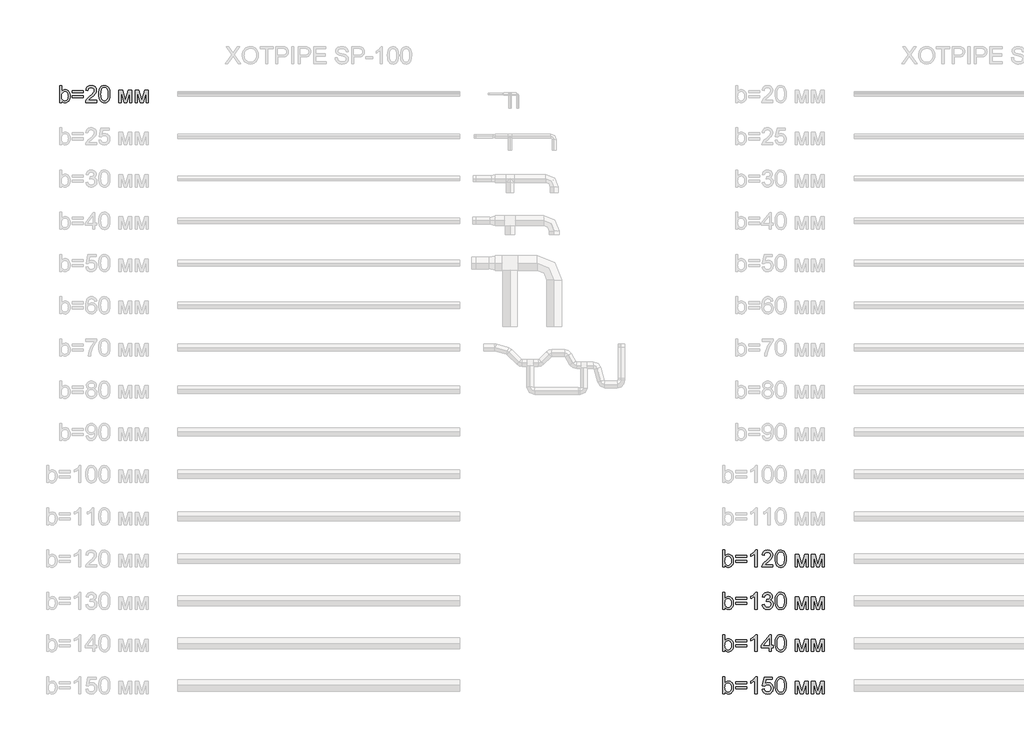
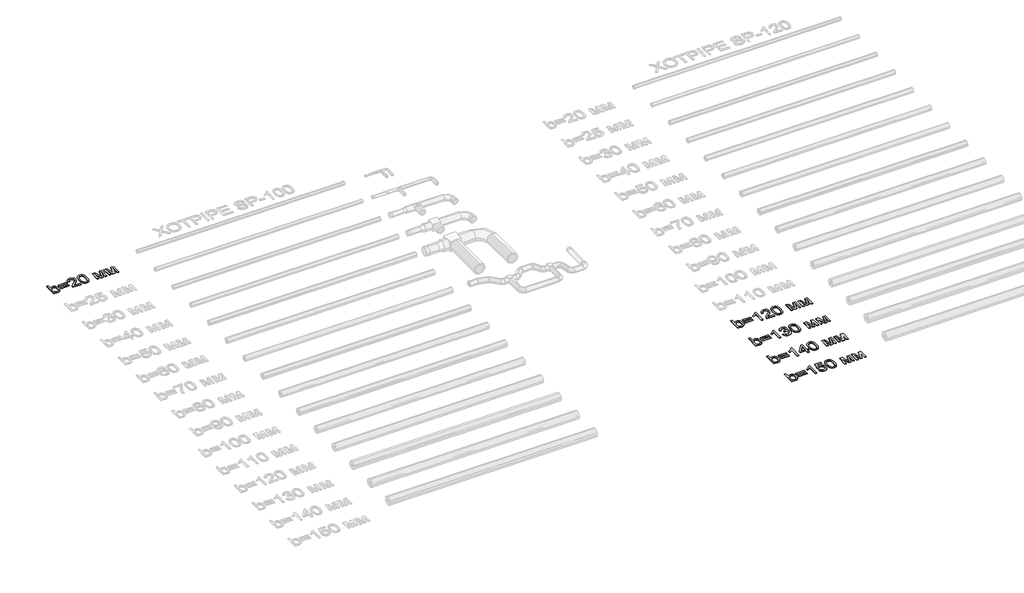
# One storey, part 74 of 86: 5 proxies.
"""IFC4 building model written with IfcOpenShell, lengths in millimetres."""

from ifc_helpers import new_model, si_unit, origin, origin_with_axes, place, context, project, spatial, polyline, outline, extrude, element, save

model = new_model("IFC4")

# Units and contexts
model_context = context("Model", 3, world=origin())
ifc_project = project(units=[si_unit("LENGTHUNIT", "METRE", prefix="MILLI")], contexts=[model_context])

# Site, building, storey
site = spatial("IfcSite", under=ifc_project)
building = spatial("IfcBuilding", under=site)
storey = spatial("IfcBuildingStorey", under=building, Name="Уровень 1", Elevation=0.0)

# Proxies
placement = place(None, origin())
element("IfcBuildingElementProxy", 1, Name="Текст модели 1", ObjectType="Текст модели 1", at=placement, inside=storey, context=model_context, shape_type="SweptSolid", body=[
    extrude(outline(polyline([(23159.6307988, 89169.2937088), (23084.2885662, 89169.2937088), (23084.2885662, 89772.0315697), (23159.6307988, 89772.0315697), (23159.6307988, 89548.5064694), (23184.4076512, 89580.3742473), (23212.3850769, 89603.1369457), (23243.563076, 89616.7945648), (23277.9416484, 89621.3471045), (23316.7531989, 89617.2452202), (23353.4310339, 89604.9395675), (23385.8782258, 89585.2026984), (23411.9978475, 89558.8071653), (23432.4704805, 89526.0104854), (23447.9767066, 89487.0701762), (23457.7439736, 89443.6049185), (23460.9997292, 89397.233393), (23457.6290105, 89343.7249568), (23447.5168541, 89296.6544555), (23430.6632602, 89256.0218892), (23407.0682288, 89221.8272577), (23378.7459136, 89194.7235517), (23347.7104688, 89175.3637617), (23313.9618943, 89163.7478877), (23277.50019, 89159.8759297), (23241.9903805, 89164.8699278), (23210.5088787, 89179.8519221), (23183.0556848, 89204.8219125), (23159.6307988, 89239.7798991), (23159.6307988, 89169.2937088)]), holes=[polyline([(23159.6307988, 89393.7017259), (23164.7811467, 89330.8674811), (23171.2190816, 89307.065516), (23180.2321905, 89288.3403224), (23198.4883345, 89265.0993774), (23219.7059286, 89248.4987024), (23243.8849727, 89238.5382973), (23271.0254669, 89235.2181623), (23293.5582391, 89237.6645776), (23314.5091188, 89245.0038234), (23333.8781058, 89257.2358997), (23351.6652003, 89274.3608066), (23366.5368299, 89296.3325588), (23377.1594225, 89323.105171), (23383.5329781, 89354.6786432), (23385.6574966, 89391.0529755), (23383.6203501, 89428.1170865), (23377.5089104, 89459.9940614), (23367.3231777, 89486.6839001), (23353.0631519, 89508.1866028), (23335.9152524, 89524.7320955), (23317.0658986, 89536.5503046), (23296.5150907, 89543.64123), (23274.2628285, 89546.0048719), (23251.7300563, 89543.5584566), (23230.7791767, 89536.2192108), (23211.4101896, 89523.9871344), (23193.6230951, 89506.8622276), (23178.7514655, 89485.1112046), (23168.1288729, 89459.00078), (23161.7553173, 89428.5309538), (23159.6307988, 89393.7017259)])]), origin_with_axes(), (0.0, 0.0, 1.0), 20.0),
    extrude(outline(polyline([(23931.8886831, 89517.7515346), (23536.3419619, 89517.7515346), (23536.3419619, 89593.0937672), (23931.8886831, 89593.0937672), (23931.8886831, 89517.7515346)])), origin_with_axes(), (0.0, 0.0, 1.0), 20.0),
    extrude(outline(polyline([(23931.8886831, 89338.8137322), (23536.3419619, 89338.8137322), (23536.3419619, 89414.1559648), (23931.8886831, 89414.1559648), (23931.8886831, 89338.8137322)])), origin_with_axes(), (0.0, 0.0, 1.0), 20.0),
    extrude(outline(polyline([(24402.7776369, 89244.6359414), (24402.7776369, 89169.2937088), (24007.2309157, 89169.2937088), (24008.8863847, 89195.8180007), (24015.3243196, 89221.2386465), (24033.9023603, 89261.8344247), (24061.0888398, 89301.2161923), (24100.4154251, 89342.4373698), (24155.4137833, 89388.5513779), (24236.7157043, 89460.7666136), (24285.4968568, 89514.0727147), (24299.724693, 89535.8513288), (24309.8874331, 89557.3356373), (24315.9850772, 89578.5256402), (24318.0176252, 89599.4213376), (24316.1000403, 89619.0800317), (24310.3472856, 89637.1476362), (24300.7593611, 89653.624151), (24287.3362668, 89668.5095763), (24270.8229638, 89680.8382216), (24251.964413, 89689.6443969), (24230.7606145, 89694.928102), (24207.2115683, 89696.6893371), (24182.4025262, 89694.9694888), (24160.2146434, 89689.8099438), (24140.6479198, 89681.2107021), (24123.7023554, 89669.1717638), (24109.9941525, 89654.0977991), (24100.1395136, 89636.3934781), (24094.1384385, 89616.0588008), (24091.9909274, 89593.0937672), (24016.6486948, 89602.5115463), (24023.1280164, 89641.4058703), (24034.9140358, 89675.3889696), (24052.006753, 89704.4608442), (24074.406168, 89728.6214943), (24101.597246, 89747.6134023), (24133.0649521, 89761.1790508), (24168.8092865, 89769.31844), (24208.830249, 89772.0315697), (24249.2098965, 89769.0149373), (24285.1473689, 89759.9650403), (24316.6426663, 89744.8818785), (24343.6957885, 89723.7654519), (24365.4238188, 89698.1792592), (24380.9438405, 89669.6867986), (24390.2558535, 89638.2880704), (24393.3598578, 89603.9830743), (24390.0121317, 89567.9490329), (24379.9689532, 89532.5403908), (24362.1450705, 89496.5247435), (24335.4552318, 89458.6696862), (24292.909679, 89413.4753831), (24227.5186544, 89355.4419984), (24140.8456563, 89282.9692453), (24106.85336, 89244.6359414), (24402.7776369, 89244.6359414)])), origin_with_axes(), (0.0, 0.0, 1.0), 20.0),
    extrude(outline(polyline([(24478.1198695, 89465.8065969), (24483.6564935, 89562.2836501), (24490.5772736, 89603.1967265), (24500.2663656, 89639.2261694), (24512.682383, 89670.6662845), (24527.7839389, 89697.8113772), (24545.5710333, 89720.6614476), (24566.0436664, 89739.2164957), (24589.2708158, 89753.5730906), (24615.3214596, 89763.8278012), (24644.1955977, 89769.9806276), (24675.8932301, 89772.0315697), (24722.3199379, 89767.1755274), (24763.8906034, 89752.6074004), (24798.6554519, 89728.8974058), (24824.664709, 89696.6157607), (24844.3096075, 89656.0383766), (24859.9813805, 89607.4411651), (24870.2452882, 89545.7289604), (24873.6665907, 89465.8065969), (24868.185149, 89369.8813667), (24861.3333468, 89329.106246), (24851.7408238, 89293.1227884), (24839.4213755, 89261.6688778), (24824.3887975, 89234.4823983), (24806.6430897, 89211.56335), (24786.1842523, 89192.9117329), (24762.9295116, 89178.458569), (24736.7960944, 89168.1348805), (24707.7840006, 89161.9406674), (24675.8932301, 89159.8759297), (24634.3961411, 89163.4627792), (24597.6079415, 89174.2233275), (24565.5286316, 89192.1575748), (24538.1582111, 89217.265521), (24511.8914367, 89262.6529621), (24493.1294549, 89319.2056218), (24481.8722659, 89386.9235001), (24478.1198695, 89465.8065969)]), holes=[polyline([(24553.4621021, 89465.9537497), (24555.6693941, 89400.456959), (24562.29127, 89347.440565), (24573.3277299, 89306.9045676), (24588.7787737, 89278.848967), (24607.467179, 89259.7604899), (24628.2157235, 89246.1258635), (24651.0244072, 89237.9450876), (24675.8932301, 89235.2181623), (24700.762053, 89237.9542847), (24723.5707367, 89246.1626517), (24744.3192812, 89259.8432634), (24763.0076866, 89278.9961198), (24778.4587304, 89307.0977057), (24789.4951902, 89347.624506), (24796.1170661, 89400.5765206), (24798.3243581, 89465.9537497), (24796.1906425, 89529.7168965), (24789.7894958, 89581.79979), (24779.120918, 89622.2024301), (24764.184909, 89650.9248169), (24745.8092033, 89670.9467945), (24724.8215355, 89685.248207), (24701.2219055, 89693.8290546), (24675.0103133, 89696.6893371), (24650.2702492, 89694.1693454), (24627.8478415, 89686.6093704), (24607.7430905, 89674.0094121), (24589.955996, 89656.3694704), (24573.9899175, 89625.0995008), (24562.5855756, 89582.9402242), (24555.7429705, 89529.8916405), (24553.4621021, 89465.9537497)])]), origin_with_axes(), (0.0, 0.0, 1.0), 20.0),
    extrude(outline(polyline([(25193.8710793, 89611.9293254), (25323.5126944, 89611.9293254), (25423.4294443, 89257.5853876), (25531.1452925, 89611.9293254), (25655.3422541, 89611.9293254), (25655.3422541, 89169.2937088), (25580.0000215, 89169.2937088), (25580.0000215, 89525.6977857), (25471.6955621, 89169.2937088), (25372.8088818, 89169.2937088), (25269.2133119, 89542.7675103), (25269.2133119, 89169.2937088), (25193.8710793, 89169.2937088), (25193.8710793, 89611.9293254)])), origin_with_axes(), (0.0, 0.0, 1.0), 20.0),
    extrude(outline(polyline([(25768.355603, 89611.9293254), (25897.9972181, 89611.9293254), (25997.913968, 89257.5853876), (26105.6298162, 89611.9293254), (26229.8267777, 89611.9293254), (26229.8267777, 89169.2937088), (26154.4845451, 89169.2937088), (26154.4845451, 89525.6977857), (26046.1800857, 89169.2937088), (25947.2934054, 89169.2937088), (25843.6978356, 89542.7675103), (25843.6978356, 89169.2937088), (25768.355603, 89169.2937088), (25768.355603, 89611.9293254)])), origin_with_axes(), (0.0, 0.0, 1.0), 20.0),
])
element("IfcBuildingElementProxy", 2, Name="Текст модели 1", ObjectType="Текст модели 1", at=placement, inside=storey, context=model_context, shape_type="SweptSolid", body=[
    extrude(outline(polyline([(46698.159624, 72669.2937088), (46622.8173914, 72669.2937088), (46622.8173914, 73272.0315697), (46698.159624, 73272.0315697), (46698.159624, 73048.5064694), (46722.9364764, 73080.3742473), (46750.9139022, 73103.1369457), (46782.0919012, 73116.7945648), (46816.4704737, 73121.3471045), (46855.2820242, 73117.2452202), (46891.9598591, 73104.9395675), (46924.4070511, 73085.2026984), (46950.5266727, 73058.8071653), (46970.9993058, 73026.0104854), (46986.5055319, 72987.0701762), (46996.2727988, 72943.6049185), (46999.5285545, 72897.233393), (46996.1578357, 72843.7249568), (46986.0456794, 72796.6544555), (46969.1920855, 72756.0218892), (46945.597054, 72721.8272577), (46917.2747389, 72694.7235517), (46886.2392941, 72675.3637617), (46852.4907195, 72663.7478877), (46816.0290153, 72659.8759297), (46780.5192057, 72664.8699278), (46749.037704, 72679.8519221), (46721.5845101, 72704.8219125), (46698.159624, 72739.7798991), (46698.159624, 72669.2937088)]), holes=[polyline([(46698.159624, 72893.7017259), (46703.309972, 72830.8674811), (46709.7479069, 72807.065516), (46718.7610158, 72788.3403224), (46737.0171598, 72765.0993774), (46758.2347539, 72748.4987024), (46782.413798, 72738.5382973), (46809.5542922, 72735.2181623), (46832.0870644, 72737.6645776), (46853.037944, 72745.0038234), (46872.4069311, 72757.2358997), (46890.1940255, 72774.3608066), (46905.0656552, 72796.3325588), (46915.6882478, 72823.105171), (46922.0618034, 72854.6786432), (46924.1863219, 72891.0529755), (46922.1491753, 72928.1170865), (46916.0377357, 72959.9940614), (46905.8520029, 72986.6839001), (46891.5919771, 73008.1866028), (46874.4440776, 73024.7320955), (46855.5947239, 73036.5503046), (46835.0439159, 73043.64123), (46812.7916537, 73046.0048719), (46790.2588815, 73043.5584566), (46769.3080019, 73036.2192108), (46749.9390149, 73023.9871344), (46732.1519204, 73006.8622276), (46717.2802907, 72985.1112046), (46706.6576981, 72959.00078), (46700.2841426, 72928.5309538), (46698.159624, 72893.7017259)])]), origin_with_axes(), (0.0, 0.0, 1.0), 20.0),
    extrude(outline(polyline([(47470.4175083, 73017.7515346), (47074.8707871, 73017.7515346), (47074.8707871, 73093.0937672), (47470.4175083, 73093.0937672), (47470.4175083, 73017.7515346)])), origin_with_axes(), (0.0, 0.0, 1.0), 20.0),
    extrude(outline(polyline([(47470.4175083, 72838.8137322), (47074.8707871, 72838.8137322), (47074.8707871, 72914.1559648), (47470.4175083, 72914.1559648), (47470.4175083, 72838.8137322)])), origin_with_axes(), (0.0, 0.0, 1.0), 20.0),
    extrude(outline(polyline([(47837.7108923, 72669.2937088), (47762.3686597, 72669.2937088), (47762.3686597, 73139.0054402), (47730.9147491, 73113.5664003), (47690.9995526, 73088.1641485), (47649.0977934, 73065.9624701), (47611.6841945, 73050.1251502), (47611.6841945, 73121.3471045), (47670.8580134, 73153.5367791), (47722.1223694, 73191.8332947), (47762.5342066, 73232.5578316), (47789.1504689, 73272.0315697), (47837.7108923, 73272.0315697), (47837.7108923, 72669.2937088)])), origin_with_axes(), (0.0, 0.0, 1.0), 20.0),
    extrude(outline(polyline([(48402.7776369, 72744.6359414), (48402.7776369, 72669.2937088), (48007.2309157, 72669.2937088), (48008.8863847, 72695.8180007), (48015.3243196, 72721.2386465), (48033.9023603, 72761.8344247), (48061.0888398, 72801.2161923), (48100.4154251, 72842.4373698), (48155.4137833, 72888.5513779), (48236.7157043, 72960.7666136), (48285.4968568, 73014.0727147), (48299.724693, 73035.8513288), (48309.8874331, 73057.3356373), (48315.9850772, 73078.5256402), (48318.0176252, 73099.4213376), (48316.1000403, 73119.0800317), (48310.3472856, 73137.1476362), (48300.7593611, 73153.624151), (48287.3362668, 73168.5095763), (48270.8229638, 73180.8382216), (48251.964413, 73189.6443969), (48230.7606145, 73194.928102), (48207.2115683, 73196.6893371), (48182.4025262, 73194.9694888), (48160.2146434, 73189.8099438), (48140.6479198, 73181.2107021), (48123.7023554, 73169.1717638), (48109.9941525, 73154.0977991), (48100.1395136, 73136.3934781), (48094.1384385, 73116.0588008), (48091.9909274, 73093.0937672), (48016.6486948, 73102.5115463), (48023.1280164, 73141.4058703), (48034.9140358, 73175.3889696), (48052.006753, 73204.4608442), (48074.406168, 73228.6214943), (48101.597246, 73247.6134023), (48133.0649521, 73261.1790508), (48168.8092865, 73269.31844), (48208.830249, 73272.0315697), (48249.2098965, 73269.0149373), (48285.1473689, 73259.9650403), (48316.6426663, 73244.8818785), (48343.6957885, 73223.7654519), (48365.4238188, 73198.1792592), (48380.9438405, 73169.6867986), (48390.2558535, 73138.2880704), (48393.3598578, 73103.9830743), (48390.0121317, 73067.9490329), (48379.9689532, 73032.5403908), (48362.1450705, 72996.5247435), (48335.4552318, 72958.6696862), (48292.909679, 72913.4753831), (48227.5186544, 72855.4419984), (48140.8456563, 72782.9692453), (48106.85336, 72744.6359414), (48402.7776369, 72744.6359414)])), origin_with_axes(), (0.0, 0.0, 1.0), 20.0),
    extrude(outline(polyline([(48478.1198695, 72965.8065969), (48483.6564935, 73062.2836501), (48490.5772736, 73103.1967265), (48500.2663656, 73139.2261694), (48512.682383, 73170.6662845), (48527.7839389, 73197.8113772), (48545.5710333, 73220.6614476), (48566.0436664, 73239.2164957), (48589.2708158, 73253.5730906), (48615.3214596, 73263.8278012), (48644.1955977, 73269.9806276), (48675.8932301, 73272.0315697), (48722.3199379, 73267.1755274), (48763.8906034, 73252.6074004), (48798.6554519, 73228.8974058), (48824.664709, 73196.6157607), (48844.3096075, 73156.0383766), (48859.9813805, 73107.4411651), (48870.2452882, 73045.7289604), (48873.6665907, 72965.8065969), (48868.185149, 72869.8813667), (48861.3333468, 72829.106246), (48851.7408238, 72793.1227884), (48839.4213755, 72761.6688778), (48824.3887975, 72734.4823983), (48806.6430897, 72711.56335), (48786.1842523, 72692.9117329), (48762.9295116, 72678.458569), (48736.7960944, 72668.1348805), (48707.7840006, 72661.9406674), (48675.8932301, 72659.8759297), (48634.3961411, 72663.4627792), (48597.6079415, 72674.2233275), (48565.5286316, 72692.1575748), (48538.1582111, 72717.265521), (48511.8914367, 72762.6529621), (48493.1294549, 72819.2056218), (48481.8722659, 72886.9235001), (48478.1198695, 72965.8065969)]), holes=[polyline([(48553.4621021, 72965.9537497), (48555.6693941, 72900.456959), (48562.29127, 72847.440565), (48573.3277299, 72806.9045676), (48588.7787737, 72778.848967), (48607.467179, 72759.7604899), (48628.2157235, 72746.1258635), (48651.0244072, 72737.9450876), (48675.8932301, 72735.2181623), (48700.762053, 72737.9542847), (48723.5707367, 72746.1626517), (48744.3192812, 72759.8432634), (48763.0076866, 72778.9961198), (48778.4587304, 72807.0977057), (48789.4951902, 72847.624506), (48796.1170661, 72900.5765206), (48798.3243581, 72965.9537497), (48796.1906425, 73029.7168965), (48789.7894958, 73081.79979), (48779.120918, 73122.2024301), (48764.184909, 73150.9248169), (48745.8092033, 73170.9467945), (48724.8215355, 73185.248207), (48701.2219055, 73193.8290546), (48675.0103133, 73196.6893371), (48650.2702492, 73194.1693454), (48627.8478415, 73186.6093704), (48607.7430905, 73174.0094121), (48589.955996, 73156.3694704), (48573.9899175, 73125.0995008), (48562.5855756, 73082.9402242), (48555.7429705, 73029.8916405), (48553.4621021, 72965.9537497)])]), origin_with_axes(), (0.0, 0.0, 1.0), 20.0),
    extrude(outline(polyline([(49193.8710793, 73111.9293254), (49323.5126944, 73111.9293254), (49423.4294443, 72757.5853876), (49531.1452925, 73111.9293254), (49655.3422541, 73111.9293254), (49655.3422541, 72669.2937088), (49580.0000215, 72669.2937088), (49580.0000215, 73025.6977857), (49471.6955621, 72669.2937088), (49372.8088818, 72669.2937088), (49269.2133119, 73042.7675103), (49269.2133119, 72669.2937088), (49193.8710793, 72669.2937088), (49193.8710793, 73111.9293254)])), origin_with_axes(), (0.0, 0.0, 1.0), 20.0),
    extrude(outline(polyline([(49768.355603, 73111.9293254), (49897.9972181, 73111.9293254), (49997.913968, 72757.5853876), (50105.6298162, 73111.9293254), (50229.8267777, 73111.9293254), (50229.8267777, 72669.2937088), (50154.4845451, 72669.2937088), (50154.4845451, 73025.6977857), (50046.1800857, 72669.2937088), (49947.2934054, 72669.2937088), (49843.6978356, 73042.7675103), (49843.6978356, 72669.2937088), (49768.355603, 72669.2937088), (49768.355603, 73111.9293254)])), origin_with_axes(), (0.0, 0.0, 1.0), 20.0),
])
element("IfcBuildingElementProxy", 3, Name="Текст модели 1", ObjectType="Текст модели 1", at=placement, inside=storey, context=model_context, shape_type="SweptSolid", body=[
    extrude(outline(polyline([(46698.159624, 71169.2937088), (46622.8173914, 71169.2937088), (46622.8173914, 71772.0315697), (46698.159624, 71772.0315697), (46698.159624, 71548.5064694), (46722.9364764, 71580.3742473), (46750.9139022, 71603.1369457), (46782.0919012, 71616.7945648), (46816.4704737, 71621.3471045), (46855.2820242, 71617.2452202), (46891.9598591, 71604.9395675), (46924.4070511, 71585.2026984), (46950.5266727, 71558.8071653), (46970.9993058, 71526.0104854), (46986.5055319, 71487.0701762), (46996.2727988, 71443.6049185), (46999.5285545, 71397.233393), (46996.1578357, 71343.7249568), (46986.0456794, 71296.6544555), (46969.1920855, 71256.0218892), (46945.597054, 71221.8272577), (46917.2747389, 71194.7235517), (46886.2392941, 71175.3637617), (46852.4907195, 71163.7478877), (46816.0290153, 71159.8759297), (46780.5192057, 71164.8699278), (46749.037704, 71179.8519221), (46721.5845101, 71204.8219125), (46698.159624, 71239.7798991), (46698.159624, 71169.2937088)]), holes=[polyline([(46698.159624, 71393.7017259), (46703.309972, 71330.8674811), (46709.7479069, 71307.065516), (46718.7610158, 71288.3403224), (46737.0171598, 71265.0993774), (46758.2347539, 71248.4987024), (46782.413798, 71238.5382973), (46809.5542922, 71235.2181623), (46832.0870644, 71237.6645776), (46853.037944, 71245.0038234), (46872.4069311, 71257.2358997), (46890.1940255, 71274.3608066), (46905.0656552, 71296.3325588), (46915.6882478, 71323.105171), (46922.0618034, 71354.6786432), (46924.1863219, 71391.0529755), (46922.1491753, 71428.1170865), (46916.0377357, 71459.9940614), (46905.8520029, 71486.6839001), (46891.5919771, 71508.1866028), (46874.4440776, 71524.7320955), (46855.5947239, 71536.5503046), (46835.0439159, 71543.64123), (46812.7916537, 71546.0048719), (46790.2588815, 71543.5584566), (46769.3080019, 71536.2192108), (46749.9390149, 71523.9871344), (46732.1519204, 71506.8622276), (46717.2802907, 71485.1112046), (46706.6576981, 71459.00078), (46700.2841426, 71428.5309538), (46698.159624, 71393.7017259)])]), origin_with_axes(), (0.0, 0.0, 1.0), 20.0),
    extrude(outline(polyline([(47470.4175083, 71517.7515346), (47074.8707871, 71517.7515346), (47074.8707871, 71593.0937672), (47470.4175083, 71593.0937672), (47470.4175083, 71517.7515346)])), origin_with_axes(), (0.0, 0.0, 1.0), 20.0),
    extrude(outline(polyline([(47470.4175083, 71338.8137322), (47074.8707871, 71338.8137322), (47074.8707871, 71414.1559648), (47470.4175083, 71414.1559648), (47470.4175083, 71338.8137322)])), origin_with_axes(), (0.0, 0.0, 1.0), 20.0),
    extrude(outline(polyline([(47837.7108923, 71169.2937088), (47762.3686597, 71169.2937088), (47762.3686597, 71639.0054402), (47730.9147491, 71613.5664003), (47690.9995526, 71588.1641485), (47649.0977934, 71565.9624701), (47611.6841945, 71550.1251502), (47611.6841945, 71621.3471045), (47670.8580134, 71653.5367791), (47722.1223694, 71691.8332947), (47762.5342066, 71732.5578316), (47789.1504689, 71772.0315697), (47837.7108923, 71772.0315697), (47837.7108923, 71169.2937088)])), origin_with_axes(), (0.0, 0.0, 1.0), 20.0),
    extrude(outline(polyline([(48016.6486948, 71329.3959531), (48091.9909274, 71338.8137322), (48108.8583168, 71291.4673194), (48120.230469, 71273.5606633), (48133.5615928, 71259.498374), (48149.1551909, 71248.8757814), (48167.3147659, 71241.2882153), (48188.0403178, 71236.7356756), (48211.3318466, 71235.2181623), (48238.6286906, 71237.3058927), (48262.9824787, 71243.5690836), (48284.3932108, 71254.0077352), (48302.860887, 71268.6218475), (48317.7325167, 71286.3169715), (48328.3551093, 71305.9986582), (48334.7286648, 71327.6669077), (48336.8531834, 71351.32172), (48334.7470589, 71373.8498937), (48328.4286857, 71394.3455193), (48317.8980636, 71412.808597), (48303.1551926, 71429.2391266), (48285.165763, 71442.7266002), (48264.8954651, 71452.36051), (48242.3442988, 71458.1408558), (48217.5122641, 71460.0676378), (48193.710299, 71458.0074986), (48164.6844096, 71451.8270811), (48173.0721191, 71527.1693137), (48185.1386485, 71526.2863969), (48230.2777694, 71531.6942622), (48270.6344242, 71547.9178582), (48287.2442963, 71560.1867228), (48299.1084907, 71575.3618551), (48306.2270073, 71593.4432551), (48308.5998461, 71614.430923), (48306.8799978, 71631.4684579), (48301.7204528, 71646.9700854), (48293.1212112, 71660.9358057), (48281.0822729, 71673.3656186), (48266.3302049, 71683.5697454), (48249.5915741, 71690.8584075), (48210.1546242, 71696.6893371), (48189.4980502, 71695.2178091), (48170.6440979, 71690.8032252), (48153.5927675, 71683.4455853), (48138.3440588, 71673.1448894), (48125.2750509, 71659.9011376), (48114.7628229, 71643.7143298), (48106.8073747, 71624.584466), (48101.4087064, 71602.5115463), (48026.0664738, 71611.9293254), (48034.9968093, 71647.8989875), (48048.2497581, 71679.5828243), (48065.8253205, 71706.9808359), (48087.7234962, 71730.0930222), (48113.2545067, 71748.4411368), (48141.7285731, 71761.5469328), (48173.1456955, 71769.4104105), (48207.5058739, 71772.0315697), (48254.8706807, 71766.8628277), (48298.3727267, 71751.3566016), (48335.0505616, 71726.8924489), (48361.9427354, 71694.8499271), (48378.4422429, 71657.9329689), (48383.9420787, 71618.8455069), (48378.7181544, 71582.4251894), (48363.0463814, 71549.3893862), (48337.147489, 71521.2464136), (48301.2422062, 71499.5045877), (48326.3501524, 71491.6503071), (48348.404678, 71480.4483003), (48367.4057831, 71465.8985674), (48383.3534676, 71448.0011083), (48395.97182, 71427.1973815), (48404.9849289, 71403.9288453), (48410.3927942, 71378.1954998), (48412.195416, 71349.9973448), (48408.5901724, 71311.7744055), (48397.7744418, 71276.5680986), (48379.748224, 71244.378424), (48354.5115191, 71215.2053818), (48323.7657814, 71190.9987465), (48289.212465, 71173.7082927), (48250.8515699, 71163.3340205), (48208.6830962, 71159.8759297), (48170.5705215, 71162.8281827), (48135.8424612, 71171.6849418), (48104.4989152, 71186.4462068), (48076.5398836, 71207.1119779), (48053.0966034, 71232.4682444), (48035.3003119, 71261.3009958), (48023.151009, 71293.610232), (48016.6486948, 71329.3959531)])), origin_with_axes(), (0.0, 0.0, 1.0), 20.0),
    extrude(outline(polyline([(48478.1198695, 71465.8065969), (48483.6564935, 71562.2836501), (48490.5772736, 71603.1967265), (48500.2663656, 71639.2261694), (48512.682383, 71670.6662845), (48527.7839389, 71697.8113772), (48545.5710333, 71720.6614476), (48566.0436664, 71739.2164957), (48589.2708158, 71753.5730906), (48615.3214596, 71763.8278012), (48644.1955977, 71769.9806276), (48675.8932301, 71772.0315697), (48722.3199379, 71767.1755274), (48763.8906034, 71752.6074004), (48798.6554519, 71728.8974058), (48824.664709, 71696.6157607), (48844.3096075, 71656.0383766), (48859.9813805, 71607.4411651), (48870.2452882, 71545.7289604), (48873.6665907, 71465.8065969), (48868.185149, 71369.8813667), (48861.3333468, 71329.106246), (48851.7408238, 71293.1227884), (48839.4213755, 71261.6688778), (48824.3887975, 71234.4823983), (48806.6430897, 71211.56335), (48786.1842523, 71192.9117329), (48762.9295116, 71178.458569), (48736.7960944, 71168.1348805), (48707.7840006, 71161.9406674), (48675.8932301, 71159.8759297), (48634.3961411, 71163.4627792), (48597.6079415, 71174.2233275), (48565.5286316, 71192.1575748), (48538.1582111, 71217.265521), (48511.8914367, 71262.6529621), (48493.1294549, 71319.2056218), (48481.8722659, 71386.9235001), (48478.1198695, 71465.8065969)]), holes=[polyline([(48553.4621021, 71465.9537497), (48555.6693941, 71400.456959), (48562.29127, 71347.440565), (48573.3277299, 71306.9045676), (48588.7787737, 71278.848967), (48607.467179, 71259.7604899), (48628.2157235, 71246.1258635), (48651.0244072, 71237.9450876), (48675.8932301, 71235.2181623), (48700.762053, 71237.9542847), (48723.5707367, 71246.1626517), (48744.3192812, 71259.8432634), (48763.0076866, 71278.9961198), (48778.4587304, 71307.0977057), (48789.4951902, 71347.624506), (48796.1170661, 71400.5765206), (48798.3243581, 71465.9537497), (48796.1906425, 71529.7168965), (48789.7894958, 71581.79979), (48779.120918, 71622.2024301), (48764.184909, 71650.9248169), (48745.8092033, 71670.9467945), (48724.8215355, 71685.248207), (48701.2219055, 71693.8290546), (48675.0103133, 71696.6893371), (48650.2702492, 71694.1693454), (48627.8478415, 71686.6093704), (48607.7430905, 71674.0094121), (48589.955996, 71656.3694704), (48573.9899175, 71625.0995008), (48562.5855756, 71582.9402242), (48555.7429705, 71529.8916405), (48553.4621021, 71465.9537497)])]), origin_with_axes(), (0.0, 0.0, 1.0), 20.0),
    extrude(outline(polyline([(49193.8710793, 71611.9293254), (49323.5126944, 71611.9293254), (49423.4294443, 71257.5853876), (49531.1452925, 71611.9293254), (49655.3422541, 71611.9293254), (49655.3422541, 71169.2937088), (49580.0000215, 71169.2937088), (49580.0000215, 71525.6977857), (49471.6955621, 71169.2937088), (49372.8088818, 71169.2937088), (49269.2133119, 71542.7675103), (49269.2133119, 71169.2937088), (49193.8710793, 71169.2937088), (49193.8710793, 71611.9293254)])), origin_with_axes(), (0.0, 0.0, 1.0), 20.0),
    extrude(outline(polyline([(49768.355603, 71611.9293254), (49897.9972181, 71611.9293254), (49997.913968, 71257.5853876), (50105.6298162, 71611.9293254), (50229.8267777, 71611.9293254), (50229.8267777, 71169.2937088), (50154.4845451, 71169.2937088), (50154.4845451, 71525.6977857), (50046.1800857, 71169.2937088), (49947.2934054, 71169.2937088), (49843.6978356, 71542.7675103), (49843.6978356, 71169.2937088), (49768.355603, 71169.2937088), (49768.355603, 71611.9293254)])), origin_with_axes(), (0.0, 0.0, 1.0), 20.0),
])
element("IfcBuildingElementProxy", 4, Name="Текст модели 1", ObjectType="Текст модели 1", at=placement, inside=storey, context=model_context, shape_type="SweptSolid", body=[
    extrude(outline(polyline([(46698.159624, 69669.2937088), (46622.8173914, 69669.2937088), (46622.8173914, 70272.0315697), (46698.159624, 70272.0315697), (46698.159624, 70048.5064694), (46722.9364764, 70080.3742473), (46750.9139022, 70103.1369457), (46782.0919012, 70116.7945648), (46816.4704737, 70121.3471045), (46855.2820242, 70117.2452202), (46891.9598591, 70104.9395675), (46924.4070511, 70085.2026984), (46950.5266727, 70058.8071653), (46970.9993058, 70026.0104854), (46986.5055319, 69987.0701762), (46996.2727988, 69943.6049185), (46999.5285545, 69897.233393), (46996.1578357, 69843.7249568), (46986.0456794, 69796.6544555), (46969.1920855, 69756.0218892), (46945.597054, 69721.8272577), (46917.2747389, 69694.7235517), (46886.2392941, 69675.3637617), (46852.4907195, 69663.7478877), (46816.0290153, 69659.8759297), (46780.5192057, 69664.8699278), (46749.037704, 69679.8519221), (46721.5845101, 69704.8219125), (46698.159624, 69739.7798991), (46698.159624, 69669.2937088)]), holes=[polyline([(46698.159624, 69893.7017259), (46703.309972, 69830.8674811), (46709.7479069, 69807.065516), (46718.7610158, 69788.3403224), (46737.0171598, 69765.0993774), (46758.2347539, 69748.4987024), (46782.413798, 69738.5382973), (46809.5542922, 69735.2181623), (46832.0870644, 69737.6645776), (46853.037944, 69745.0038234), (46872.4069311, 69757.2358997), (46890.1940255, 69774.3608066), (46905.0656552, 69796.3325588), (46915.6882478, 69823.105171), (46922.0618034, 69854.6786432), (46924.1863219, 69891.0529755), (46922.1491753, 69928.1170865), (46916.0377357, 69959.9940614), (46905.8520029, 69986.6839001), (46891.5919771, 70008.1866028), (46874.4440776, 70024.7320955), (46855.5947239, 70036.5503046), (46835.0439159, 70043.64123), (46812.7916537, 70046.0048719), (46790.2588815, 70043.5584566), (46769.3080019, 70036.2192108), (46749.9390149, 70023.9871344), (46732.1519204, 70006.8622276), (46717.2802907, 69985.1112046), (46706.6576981, 69959.00078), (46700.2841426, 69928.5309538), (46698.159624, 69893.7017259)])]), origin_with_axes(), (0.0, 0.0, 1.0), 20.0),
    extrude(outline(polyline([(47470.4175083, 70017.7515346), (47074.8707871, 70017.7515346), (47074.8707871, 70093.0937672), (47470.4175083, 70093.0937672), (47470.4175083, 70017.7515346)])), origin_with_axes(), (0.0, 0.0, 1.0), 20.0),
    extrude(outline(polyline([(47470.4175083, 69838.8137322), (47074.8707871, 69838.8137322), (47074.8707871, 69914.1559648), (47470.4175083, 69914.1559648), (47470.4175083, 69838.8137322)])), origin_with_axes(), (0.0, 0.0, 1.0), 20.0),
    extrude(outline(polyline([(47837.7108923, 69669.2937088), (47762.3686597, 69669.2937088), (47762.3686597, 70139.0054402), (47730.9147491, 70113.5664003), (47690.9995526, 70088.1641485), (47649.0977934, 70065.9624701), (47611.6841945, 70050.1251502), (47611.6841945, 70121.3471045), (47670.8580134, 70153.5367791), (47722.1223694, 70191.8332947), (47762.5342066, 70232.5578316), (47789.1504689, 70272.0315697), (47837.7108923, 70272.0315697), (47837.7108923, 69669.2937088)])), origin_with_axes(), (0.0, 0.0, 1.0), 20.0),
    extrude(outline(polyline([(48261.5109507, 69669.2937088), (48261.5109507, 69810.5603949), (47988.3953575, 69810.5603949), (47988.3953575, 69885.9026276), (48280.3465089, 70262.6137906), (48336.8531834, 70262.6137906), (48336.8531834, 69885.9026276), (48412.195416, 69885.9026276), (48412.195416, 69810.5603949), (48336.8531834, 69810.5603949), (48336.8531834, 69669.2937088), (48261.5109507, 69669.2937088)]), holes=[polyline([(48261.5109507, 69885.9026276), (48261.5109507, 70118.6983541), (48081.1016203, 69885.9026276), (48261.5109507, 69885.9026276)])]), origin_with_axes(), (0.0, 0.0, 1.0), 20.0),
    extrude(outline(polyline([(48478.1198695, 69965.8065969), (48483.6564935, 70062.2836501), (48490.5772736, 70103.1967265), (48500.2663656, 70139.2261694), (48512.682383, 70170.6662845), (48527.7839389, 70197.8113772), (48545.5710333, 70220.6614476), (48566.0436664, 70239.2164957), (48589.2708158, 70253.5730906), (48615.3214596, 70263.8278012), (48644.1955977, 70269.9806276), (48675.8932301, 70272.0315697), (48722.3199379, 70267.1755274), (48763.8906034, 70252.6074004), (48798.6554519, 70228.8974058), (48824.664709, 70196.6157607), (48844.3096075, 70156.0383766), (48859.9813805, 70107.4411651), (48870.2452882, 70045.7289604), (48873.6665907, 69965.8065969), (48868.185149, 69869.8813667), (48861.3333468, 69829.106246), (48851.7408238, 69793.1227884), (48839.4213755, 69761.6688778), (48824.3887975, 69734.4823983), (48806.6430897, 69711.56335), (48786.1842523, 69692.9117329), (48762.9295116, 69678.458569), (48736.7960944, 69668.1348805), (48707.7840006, 69661.9406674), (48675.8932301, 69659.8759297), (48634.3961411, 69663.4627792), (48597.6079415, 69674.2233275), (48565.5286316, 69692.1575748), (48538.1582111, 69717.265521), (48511.8914367, 69762.6529621), (48493.1294549, 69819.2056218), (48481.8722659, 69886.9235001), (48478.1198695, 69965.8065969)]), holes=[polyline([(48553.4621021, 69965.9537497), (48555.6693941, 69900.456959), (48562.29127, 69847.440565), (48573.3277299, 69806.9045676), (48588.7787737, 69778.848967), (48607.467179, 69759.7604899), (48628.2157235, 69746.1258635), (48651.0244072, 69737.9450876), (48675.8932301, 69735.2181623), (48700.762053, 69737.9542847), (48723.5707367, 69746.1626517), (48744.3192812, 69759.8432634), (48763.0076866, 69778.9961198), (48778.4587304, 69807.0977057), (48789.4951902, 69847.624506), (48796.1170661, 69900.5765206), (48798.3243581, 69965.9537497), (48796.1906425, 70029.7168965), (48789.7894958, 70081.79979), (48779.120918, 70122.2024301), (48764.184909, 70150.9248169), (48745.8092033, 70170.9467945), (48724.8215355, 70185.248207), (48701.2219055, 70193.8290546), (48675.0103133, 70196.6893371), (48650.2702492, 70194.1693454), (48627.8478415, 70186.6093704), (48607.7430905, 70174.0094121), (48589.955996, 70156.3694704), (48573.9899175, 70125.0995008), (48562.5855756, 70082.9402242), (48555.7429705, 70029.8916405), (48553.4621021, 69965.9537497)])]), origin_with_axes(), (0.0, 0.0, 1.0), 20.0),
    extrude(outline(polyline([(49193.8710793, 70111.9293254), (49323.5126944, 70111.9293254), (49423.4294443, 69757.5853876), (49531.1452925, 70111.9293254), (49655.3422541, 70111.9293254), (49655.3422541, 69669.2937088), (49580.0000215, 69669.2937088), (49580.0000215, 70025.6977857), (49471.6955621, 69669.2937088), (49372.8088818, 69669.2937088), (49269.2133119, 70042.7675103), (49269.2133119, 69669.2937088), (49193.8710793, 69669.2937088), (49193.8710793, 70111.9293254)])), origin_with_axes(), (0.0, 0.0, 1.0), 20.0),
    extrude(outline(polyline([(49768.355603, 70111.9293254), (49897.9972181, 70111.9293254), (49997.913968, 69757.5853876), (50105.6298162, 70111.9293254), (50229.8267777, 70111.9293254), (50229.8267777, 69669.2937088), (50154.4845451, 69669.2937088), (50154.4845451, 70025.6977857), (50046.1800857, 69669.2937088), (49947.2934054, 69669.2937088), (49843.6978356, 70042.7675103), (49843.6978356, 69669.2937088), (49768.355603, 69669.2937088), (49768.355603, 70111.9293254)])), origin_with_axes(), (0.0, 0.0, 1.0), 20.0),
])
element("IfcBuildingElementProxy", 5, Name="Текст модели 1", ObjectType="Текст модели 1", at=placement, inside=storey, context=model_context, shape_type="SweptSolid", body=[
    extrude(outline(polyline([(46698.159624, 68169.2937088), (46622.8173914, 68169.2937088), (46622.8173914, 68772.0315697), (46698.159624, 68772.0315697), (46698.159624, 68548.5064694), (46722.9364764, 68580.3742473), (46750.9139022, 68603.1369457), (46782.0919012, 68616.7945648), (46816.4704737, 68621.3471045), (46855.2820242, 68617.2452202), (46891.9598591, 68604.9395675), (46924.4070511, 68585.2026984), (46950.5266727, 68558.8071653), (46970.9993058, 68526.0104854), (46986.5055319, 68487.0701762), (46996.2727988, 68443.6049185), (46999.5285545, 68397.233393), (46996.1578357, 68343.7249568), (46986.0456794, 68296.6544555), (46969.1920855, 68256.0218892), (46945.597054, 68221.8272577), (46917.2747389, 68194.7235517), (46886.2392941, 68175.3637617), (46852.4907195, 68163.7478877), (46816.0290153, 68159.8759297), (46780.5192057, 68164.8699278), (46749.037704, 68179.8519221), (46721.5845101, 68204.8219125), (46698.159624, 68239.7798991), (46698.159624, 68169.2937088)]), holes=[polyline([(46698.159624, 68393.7017259), (46703.309972, 68330.8674811), (46709.7479069, 68307.065516), (46718.7610158, 68288.3403224), (46737.0171598, 68265.0993774), (46758.2347539, 68248.4987024), (46782.413798, 68238.5382973), (46809.5542922, 68235.2181623), (46832.0870644, 68237.6645776), (46853.037944, 68245.0038234), (46872.4069311, 68257.2358997), (46890.1940255, 68274.3608066), (46905.0656552, 68296.3325588), (46915.6882478, 68323.105171), (46922.0618034, 68354.6786432), (46924.1863219, 68391.0529755), (46922.1491753, 68428.1170865), (46916.0377357, 68459.9940614), (46905.8520029, 68486.6839001), (46891.5919771, 68508.1866028), (46874.4440776, 68524.7320955), (46855.5947239, 68536.5503046), (46835.0439159, 68543.64123), (46812.7916537, 68546.0048719), (46790.2588815, 68543.5584566), (46769.3080019, 68536.2192108), (46749.9390149, 68523.9871344), (46732.1519204, 68506.8622276), (46717.2802907, 68485.1112046), (46706.6576981, 68459.00078), (46700.2841426, 68428.5309538), (46698.159624, 68393.7017259)])]), origin_with_axes(), (0.0, 0.0, 1.0), 20.0),
    extrude(outline(polyline([(47470.4175083, 68517.7515346), (47074.8707871, 68517.7515346), (47074.8707871, 68593.0937672), (47470.4175083, 68593.0937672), (47470.4175083, 68517.7515346)])), origin_with_axes(), (0.0, 0.0, 1.0), 20.0),
    extrude(outline(polyline([(47470.4175083, 68338.8137322), (47074.8707871, 68338.8137322), (47074.8707871, 68414.1559648), (47470.4175083, 68414.1559648), (47470.4175083, 68338.8137322)])), origin_with_axes(), (0.0, 0.0, 1.0), 20.0),
    extrude(outline(polyline([(47837.7108923, 68169.2937088), (47762.3686597, 68169.2937088), (47762.3686597, 68639.0054402), (47730.9147491, 68613.5664003), (47690.9995526, 68588.1641485), (47649.0977934, 68565.9624701), (47611.6841945, 68550.1251502), (47611.6841945, 68621.3471045), (47670.8580134, 68653.5367791), (47722.1223694, 68691.8332947), (47762.5342066, 68732.5578316), (47789.1504689, 68772.0315697), (47837.7108923, 68772.0315697), (47837.7108923, 68169.2937088)])), origin_with_axes(), (0.0, 0.0, 1.0), 20.0),
    extrude(outline(polyline([(48016.6486948, 68329.3959531), (48091.9909274, 68338.8137322), (48097.6195219, 68314.5933013), (48105.8232904, 68293.5826409), (48116.6022328, 68275.7817508), (48129.9563493, 68261.1906312), (48145.8580485, 68249.8276761), (48164.2797394, 68241.7112795), (48185.221422, 68236.8414416), (48208.6830962, 68235.2181623), (48237.3778919, 68237.4760381), (48262.6881731, 68244.2496653), (48284.61394, 68255.539044), (48303.1551926, 68271.3441743), (48317.8980636, 68290.8833067), (48328.4286857, 68313.3746922), (48334.7470589, 68338.8183307), (48336.8531834, 68367.2142222), (48334.8804162, 68394.0512138), (48328.9621146, 68417.9083611), (48319.0982786, 68438.7856644), (48305.2889082, 68456.6831234), (48287.4880181, 68471.0397183), (48265.6496232, 68481.2944289), (48239.7737234, 68487.4472553), (48209.8603186, 68489.4981974), (48173.3112424, 68486.2240476), (48143.7151359, 68476.4015984), (48120.0787177, 68461.3552248), (48101.4087064, 68442.409302), (48026.0664738, 68451.8270811), (48091.9909274, 68762.6137906), (48383.9420787, 68762.6137906), (48383.9420787, 68687.271558), (48152.9121858, 68687.271558), (48120.685723, 68521.2832018), (48147.2743942, 68540.3394891), (48174.5068589, 68553.951123), (48202.3831171, 68562.1181032), (48230.9031687, 68564.84043), (48267.5947992, 68561.4651127), (48301.2973885, 68551.3391608), (48332.0109366, 68534.4625743), (48359.7354435, 68510.8353531), (48382.6866814, 68481.9014342), (48399.0804228, 68449.1047543), (48408.9166677, 68412.4453135), (48412.195416, 68371.9231117), (48409.243163, 68332.8908321), (48400.3864039, 68296.5808791), (48385.6251389, 68262.993253), (48364.9593678, 68232.1279536), (48333.65261, 68200.5176931), (48297.1219279, 68177.9389357), (48255.3673214, 68164.3916812), (48208.3887906, 68159.8759297), (48169.5082623, 68162.777599), (48134.3893273, 68171.4826067), (48103.0319858, 68185.9909529), (48075.4362376, 68206.3026375), (48052.4758026, 68231.4059852), (48035.0244004, 68260.2893203), (48023.0820311, 68292.952643), (48016.6486948, 68329.3959531)])), origin_with_axes(), (0.0, 0.0, 1.0), 20.0),
    extrude(outline(polyline([(48478.1198695, 68465.8065969), (48483.6564935, 68562.2836501), (48490.5772736, 68603.1967265), (48500.2663656, 68639.2261694), (48512.682383, 68670.6662845), (48527.7839389, 68697.8113772), (48545.5710333, 68720.6614476), (48566.0436664, 68739.2164957), (48589.2708158, 68753.5730906), (48615.3214596, 68763.8278012), (48644.1955977, 68769.9806276), (48675.8932301, 68772.0315697), (48722.3199379, 68767.1755274), (48763.8906034, 68752.6074004), (48798.6554519, 68728.8974058), (48824.664709, 68696.6157607), (48844.3096075, 68656.0383766), (48859.9813805, 68607.4411651), (48870.2452882, 68545.7289604), (48873.6665907, 68465.8065969), (48868.185149, 68369.8813667), (48861.3333468, 68329.106246), (48851.7408238, 68293.1227884), (48839.4213755, 68261.6688778), (48824.3887975, 68234.4823983), (48806.6430897, 68211.56335), (48786.1842523, 68192.9117329), (48762.9295116, 68178.458569), (48736.7960944, 68168.1348805), (48707.7840006, 68161.9406674), (48675.8932301, 68159.8759297), (48634.3961411, 68163.4627792), (48597.6079415, 68174.2233275), (48565.5286316, 68192.1575748), (48538.1582111, 68217.265521), (48511.8914367, 68262.6529621), (48493.1294549, 68319.2056218), (48481.8722659, 68386.9235001), (48478.1198695, 68465.8065969)]), holes=[polyline([(48553.4621021, 68465.9537497), (48555.6693941, 68400.456959), (48562.29127, 68347.440565), (48573.3277299, 68306.9045676), (48588.7787737, 68278.848967), (48607.467179, 68259.7604899), (48628.2157235, 68246.1258635), (48651.0244072, 68237.9450876), (48675.8932301, 68235.2181623), (48700.762053, 68237.9542847), (48723.5707367, 68246.1626517), (48744.3192812, 68259.8432634), (48763.0076866, 68278.9961198), (48778.4587304, 68307.0977057), (48789.4951902, 68347.624506), (48796.1170661, 68400.5765206), (48798.3243581, 68465.9537497), (48796.1906425, 68529.7168965), (48789.7894958, 68581.79979), (48779.120918, 68622.2024301), (48764.184909, 68650.9248169), (48745.8092033, 68670.9467945), (48724.8215355, 68685.248207), (48701.2219055, 68693.8290546), (48675.0103133, 68696.6893371), (48650.2702492, 68694.1693454), (48627.8478415, 68686.6093704), (48607.7430905, 68674.0094121), (48589.955996, 68656.3694704), (48573.9899175, 68625.0995008), (48562.5855756, 68582.9402242), (48555.7429705, 68529.8916405), (48553.4621021, 68465.9537497)])]), origin_with_axes(), (0.0, 0.0, 1.0), 20.0),
    extrude(outline(polyline([(49193.8710793, 68611.9293254), (49323.5126944, 68611.9293254), (49423.4294443, 68257.5853876), (49531.1452925, 68611.9293254), (49655.3422541, 68611.9293254), (49655.3422541, 68169.2937088), (49580.0000215, 68169.2937088), (49580.0000215, 68525.6977857), (49471.6955621, 68169.2937088), (49372.8088818, 68169.2937088), (49269.2133119, 68542.7675103), (49269.2133119, 68169.2937088), (49193.8710793, 68169.2937088), (49193.8710793, 68611.9293254)])), origin_with_axes(), (0.0, 0.0, 1.0), 20.0),
    extrude(outline(polyline([(49768.355603, 68611.9293254), (49897.9972181, 68611.9293254), (49997.913968, 68257.5853876), (50105.6298162, 68611.9293254), (50229.8267777, 68611.9293254), (50229.8267777, 68169.2937088), (50154.4845451, 68169.2937088), (50154.4845451, 68525.6977857), (50046.1800857, 68169.2937088), (49947.2934054, 68169.2937088), (49843.6978356, 68542.7675103), (49843.6978356, 68169.2937088), (49768.355603, 68169.2937088), (49768.355603, 68611.9293254)])), origin_with_axes(), (0.0, 0.0, 1.0), 20.0),
])

save(model, "model.ifc")
